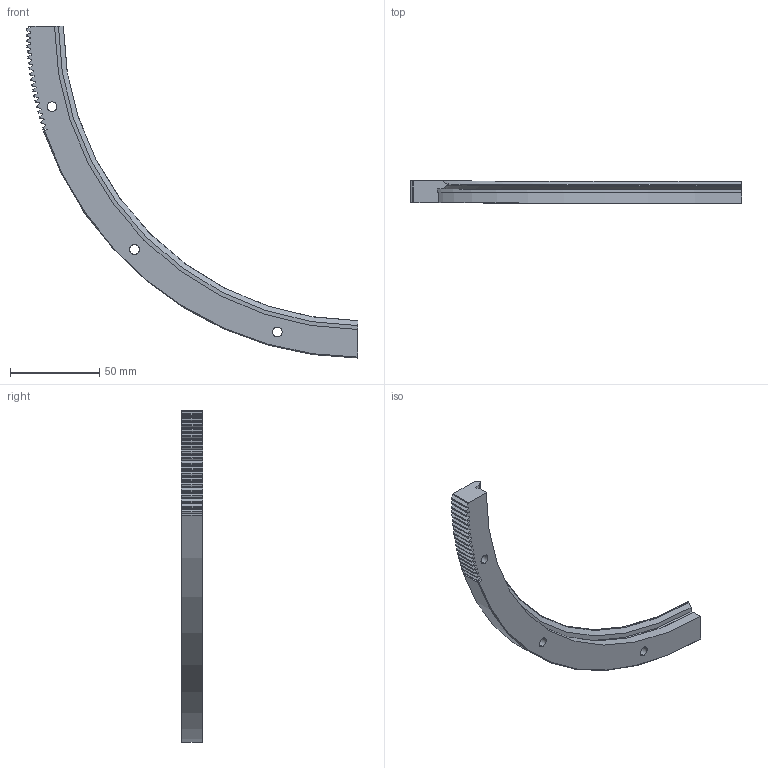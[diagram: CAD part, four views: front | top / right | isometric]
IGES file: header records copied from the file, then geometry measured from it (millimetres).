
Start section: 3D InterOp IGES (v. 2020 1.0.1), Spatial Corp. Copyright (c) 1999-2017.
Global section: file name: ris_374_r90_p.igs; native system: Spatial Corp.; preprocessor: 3D InterOp ACIS/IGES; author: TraceParts; organization: TraceParts S.A.; date: 20220624.062456; units: millimetre
Bounding box: 185.98 x 12.25 x 186 mm (x, y, z)
Surface area: 19536.1 mm2 (no closed solid volume)
Topology: 0 solids, 0 shells, 166 faces, 966 edges, 966 vertices
Faces by surface type: extrusion 107, revolution 59
